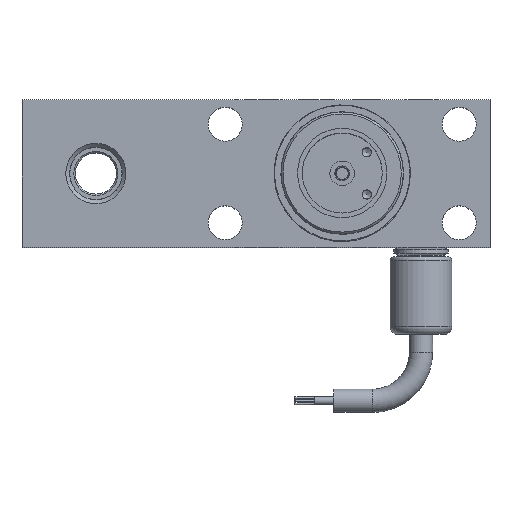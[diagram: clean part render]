
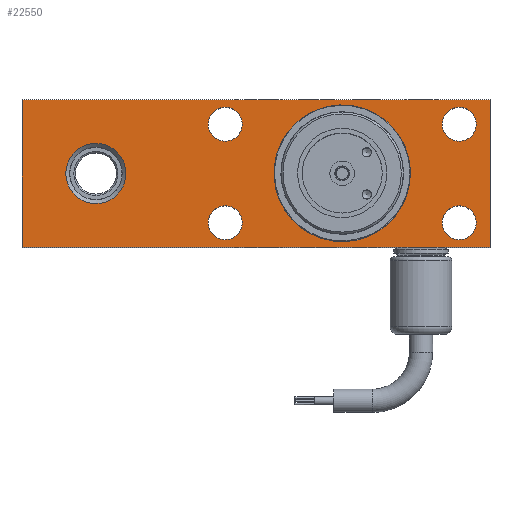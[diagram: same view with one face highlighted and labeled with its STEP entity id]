
A CAD part, top view. The second image highlights one B-rep face of the part: STEP entity #22550.
In plain terms, the highlighted planar face has unit normal (0, 0, 1).
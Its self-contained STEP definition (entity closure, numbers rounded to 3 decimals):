
#2050=LINE('',#87987,#3861);
#2051=LINE('',#87989,#3862);
#2052=LINE('',#87991,#3863);
#2053=LINE('',#87992,#3864);
#3861=VECTOR('',#26597,10.);
#3862=VECTOR('',#26598,10.);
#3863=VECTOR('',#26599,10.);
#3864=VECTOR('',#26600,10.);
#5104=FACE_BOUND('',#7389,.T.);
#5105=FACE_BOUND('',#7390,.T.);
#5106=FACE_BOUND('',#7391,.T.);
#5107=FACE_BOUND('',#7392,.T.);
#5108=FACE_BOUND('',#7393,.T.);
#5109=FACE_BOUND('',#7394,.T.);
#6002=FACE_OUTER_BOUND('',#7388,.T.);
#7388=EDGE_LOOP('',(#16855,#16856,#16857,#16858));
#7389=EDGE_LOOP('',(#16859));
#7390=EDGE_LOOP('',(#16860));
#7391=EDGE_LOOP('',(#16861));
#7392=EDGE_LOOP('',(#16862));
#7393=EDGE_LOOP('',(#16863));
#7394=EDGE_LOOP('',(#16864));
#8521=CIRCLE('',#23890,7.76);
#8522=CIRCLE('',#23891,4.369);
#8523=CIRCLE('',#23892,4.369);
#8524=CIRCLE('',#23893,4.369);
#8525=CIRCLE('',#23894,4.369);
#8526=CIRCLE('',#23895,17.463);
#9701=VERTEX_POINT('',#87985);
#9702=VERTEX_POINT('',#87986);
#9703=VERTEX_POINT('',#87988);
#9704=VERTEX_POINT('',#87990);
#9705=VERTEX_POINT('',#87993);
#9706=VERTEX_POINT('',#87995);
#9707=VERTEX_POINT('',#87997);
#9708=VERTEX_POINT('',#87999);
#9709=VERTEX_POINT('',#88001);
#9710=VERTEX_POINT('',#88003);
#12290=EDGE_CURVE('',#9701,#9702,#2050,.T.);
#12291=EDGE_CURVE('',#9703,#9701,#2051,.T.);
#12292=EDGE_CURVE('',#9704,#9703,#2052,.T.);
#12293=EDGE_CURVE('',#9702,#9704,#2053,.T.);
#12294=EDGE_CURVE('',#9705,#9705,#8521,.T.);
#12295=EDGE_CURVE('',#9706,#9706,#8522,.T.);
#12296=EDGE_CURVE('',#9707,#9707,#8523,.T.);
#12297=EDGE_CURVE('',#9708,#9708,#8524,.T.);
#12298=EDGE_CURVE('',#9709,#9709,#8525,.T.);
#12299=EDGE_CURVE('',#9710,#9710,#8526,.T.);
#16855=ORIENTED_EDGE('',*,*,#12290,.F.);
#16856=ORIENTED_EDGE('',*,*,#12291,.F.);
#16857=ORIENTED_EDGE('',*,*,#12292,.F.);
#16858=ORIENTED_EDGE('',*,*,#12293,.F.);
#16859=ORIENTED_EDGE('',*,*,#12294,.F.);
#16860=ORIENTED_EDGE('',*,*,#12295,.T.);
#16861=ORIENTED_EDGE('',*,*,#12296,.T.);
#16862=ORIENTED_EDGE('',*,*,#12297,.T.);
#16863=ORIENTED_EDGE('',*,*,#12298,.T.);
#16864=ORIENTED_EDGE('',*,*,#12299,.T.);
#20312=PLANE('',#23889);
#22550=ADVANCED_FACE('',(#6002,#5104,#5105,#5106,#5107,#5108,#5109),#20312,
 .F.);
#23889=AXIS2_PLACEMENT_3D('',#87984,#26595,#26596);
#23890=AXIS2_PLACEMENT_3D('',#87994,#26601,#26602);
#23891=AXIS2_PLACEMENT_3D('',#87996,#26603,#26604);
#23892=AXIS2_PLACEMENT_3D('',#87998,#26605,#26606);
#23893=AXIS2_PLACEMENT_3D('',#88000,#26607,#26608);
#23894=AXIS2_PLACEMENT_3D('',#88002,#26609,#26610);
#23895=AXIS2_PLACEMENT_3D('',#88004,#26611,#26612);
#26595=DIRECTION('center_axis',(0.,0.,-1.));
#26596=DIRECTION('ref_axis',(-1.,0.,0.));
#26597=DIRECTION('',(0.,-1.,0.));
#26598=DIRECTION('',(1.,0.,0.));
#26599=DIRECTION('',(0.,1.,0.));
#26600=DIRECTION('',(-1.,0.,0.));
#26601=DIRECTION('center_axis',(0.,0.,1.));
#26602=DIRECTION('ref_axis',(-1.,0.,0.));
#26603=DIRECTION('center_axis',(0.,0.,-1.));
#26604=DIRECTION('ref_axis',(-1.,0.,0.));
#26605=DIRECTION('center_axis',(0.,0.,-1.));
#26606=DIRECTION('ref_axis',(-1.,0.,0.));
#26607=DIRECTION('center_axis',(0.,0.,-1.));
#26608=DIRECTION('ref_axis',(-1.,0.,0.));
#26609=DIRECTION('center_axis',(0.,0.,-1.));
#26610=DIRECTION('ref_axis',(-1.,0.,0.));
#26611=DIRECTION('center_axis',(0.,0.,
-1.));
#26612=DIRECTION('ref_axis',(-1.,-0.018,0.));
#87984=CARTESIAN_POINT('Origin',(-30.099,0.,19.05));
#87985=CARTESIAN_POINT('',(38.1,19.05,19.05));
#87986=CARTESIAN_POINT('',(38.1,-19.05,19.05));
#87987=CARTESIAN_POINT('',(38.1,9.525,19.05));
#87988=CARTESIAN_POINT('',(-82.55,19.05,19.05));
#87989=CARTESIAN_POINT('',(-34.1,19.05,19.05));
#87990=CARTESIAN_POINT('',(-82.55,-19.05,19.05));
#87991=CARTESIAN_POINT('',(-82.55,-19.05,19.05));
#87992=CARTESIAN_POINT('',(4.,-19.05,19.05));
#87993=CARTESIAN_POINT('',(-55.74,0.,19.05));
#87994=CARTESIAN_POINT('Origin',(-63.5,0.,19.05));
#87995=CARTESIAN_POINT('',(-25.794,12.7,19.05));
#87996=CARTESIAN_POINT('Origin',(-30.163,12.7,19.05));
#87997=CARTESIAN_POINT('',(-25.794,-12.7,19.05));
#87998=CARTESIAN_POINT('Origin',(-30.163,-12.7,19.05));
#87999=CARTESIAN_POINT('',(34.531,-12.7,19.05));
#88000=CARTESIAN_POINT('Origin',(30.163,-12.7,19.05));
#88001=CARTESIAN_POINT('',(34.531,12.7,19.05));
#88002=CARTESIAN_POINT('Origin',(30.163,12.7,19.05));
#88003=CARTESIAN_POINT('',(17.46,0.308,19.05));
#88004=CARTESIAN_POINT('Origin',(0.,0.,19.05));
